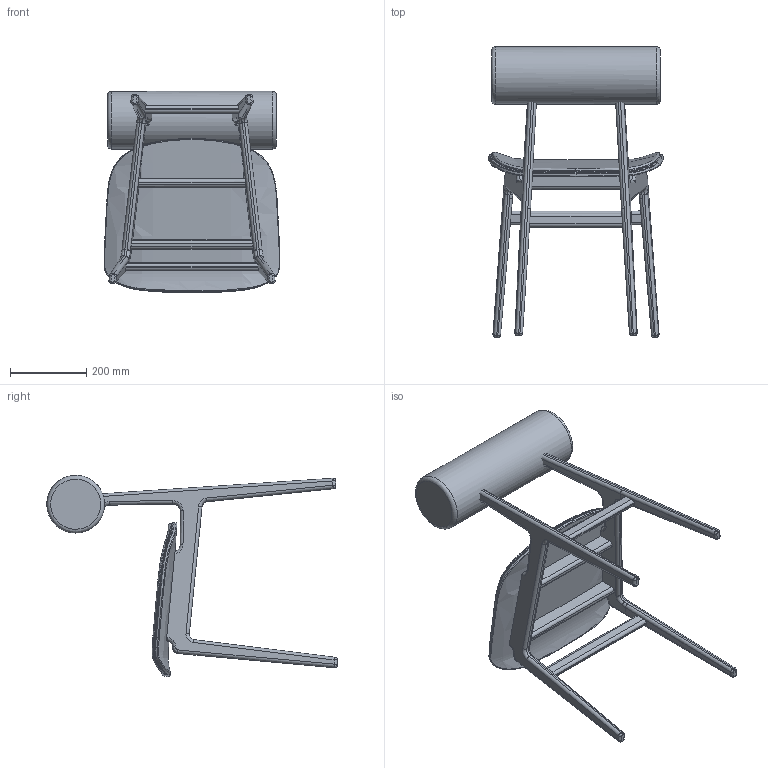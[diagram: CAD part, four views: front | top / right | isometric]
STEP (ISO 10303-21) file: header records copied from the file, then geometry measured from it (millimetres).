
FILE_DESCRIPTION(/* description */ (''),/* implementation_level */ '2;1');
FILE_NAME(/* name */ 'TOTEM_Simplify.stp',/* time_stamp */ '2024-04-15T08:41:10+02:00',/* author */ ('UnoKofod'),/* organization */ (''),/* preprocessor_version */ 'ST-DEVELOPER v20',/* originating_system */ 'Autodesk Inventor 2024',/* authorisation */ '');
FILE_SCHEMA (('AUTOMOTIVE_DESIGN { 1 0 10303 214 3 1 1 }'));
Length unit declared in the file: millimetre
Products named in the file (2): NOR NYDC PC2023-200 - assembly - uph.seat+backrest; TOTEM_Simplify_2
Assembly tree (1 placements, depth 2):
  NOR NYDC PC2023-200 - assembly - uph.seat+backrest
    TOTEM_Simplify_2
Bounding box: 458.78 x 759.54 x 526.63 mm (x, y, z)
Volume: 14627727.2 mm3; surface area: 1377690.3 mm2
Topology: 9 solids, 9 shells, 238 faces, 887 edges, 651 vertices
Faces by surface type: cylinder 83, bspline 77, plane 52, torus 26
Full cylindrical faces by diameter (mm): 151 x1
Entity records: 71868 total; most frequent: CARTESIAN_POINT 64886, ORIENTED_EDGE 1742, DIRECTION 991, EDGE_CURVE 871, VERTEX_POINT 651, B_SPLINE_CURVE_WITH_KNOTS 444, AXIS2_PLACEMENT_3D 400, STYLED_ITEM 247
